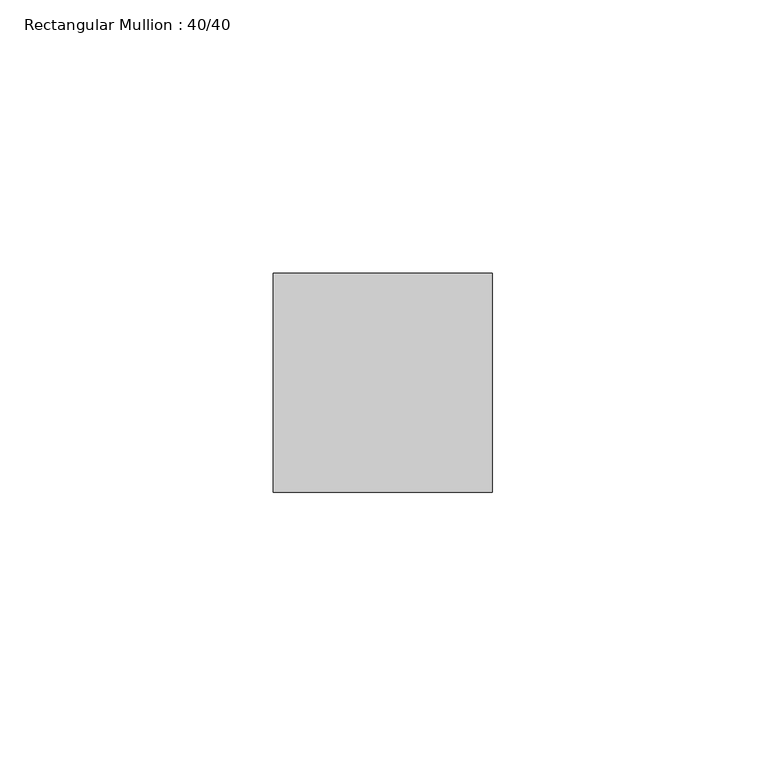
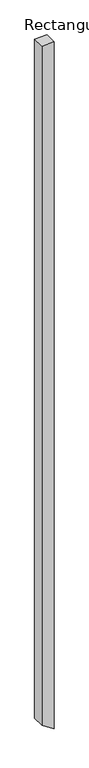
"""IFC4 building model written with IfcOpenShell, lengths in millimetres: member geometry, Rectangular Mullion : 40/40."""

from ifc_helpers import new_model, si_unit, frame, origin, place, context, project, spatial, polyline, outline, extrude, source, transform, mapped, element, save


def rectangular_mullion_40_40_4fb1e333(model_context):
    return source(origin(), model_context, "Body", "SweptSolid", [
        extrude(outline(polyline([(0.0, 0.0), (0.0, -40.0), (-2323.5328808, -40.0), (-2350.5438355, 0.0), (0.0, 0.0)])), frame((0.0, -20.0, 0.0), z_axis=(0.0, 1.0, 0.0), x_axis=(0.0, 0.0, 1.0)), (0.0, 0.0, 1.0), 40.0),
    ])


if __name__ == "__main__":
    model = new_model("IFC4")
    model_context = context("Model", 3, world=origin())
    ifc_project = project(units=[si_unit("LENGTHUNIT", "METRE", prefix="MILLI")], contexts=[model_context])
    site = spatial("IfcSite", under=ifc_project)
    building = spatial("IfcBuilding", under=site)
    placement = place(None, origin())
    rectangular_mullion_40_40_shape = rectangular_mullion_40_40_4fb1e333(model_context)
    element("IfcMember", 1, ObjectType="Rectangular Mullion : 40/40", at=placement, inside=building, context=model_context, shape_type="MappedRepresentation", body=[
        mapped(rectangular_mullion_40_40_shape, transform((0.0, 0.0, 0.0), x_axis=(1.0, 0.0, 0.0), y_axis=(0.0, 1.0, 0.0), z_axis=(0.0, 0.0, 1.0))),
    ])
    save(model, "model.ifc")
